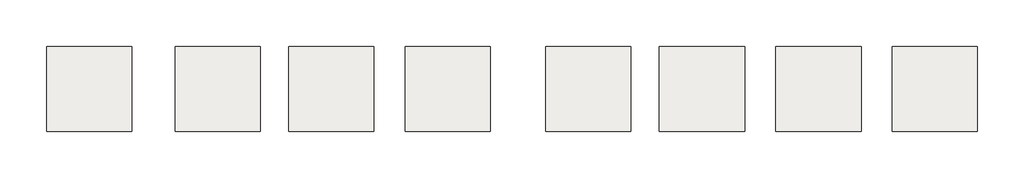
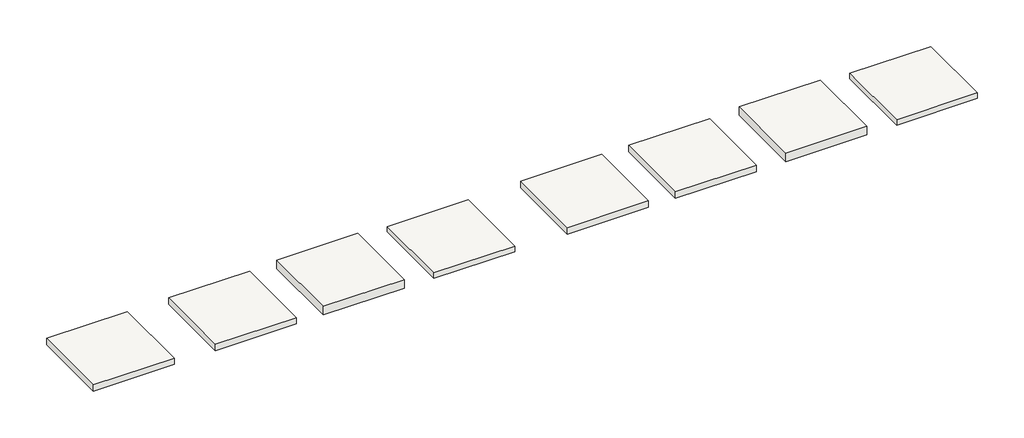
# One storey: 8 roofs.
"""IFC4 building model written with IfcOpenShell, lengths in millimetres."""

from ifc_helpers import new_model, si_unit, origin, origin_with_axes, place, context, project, spatial, polyline, outline, extrude, element, save

model = new_model("IFC4")

# Units and contexts
model_context = context("Model", 3, world=origin())
ifc_project = project(units=[si_unit("LENGTHUNIT", "METRE", prefix="MILLI")], contexts=[model_context])

# Site, building, storey
site = spatial("IfcSite", under=ifc_project)
building = spatial("IfcBuilding", under=site)
storey = spatial("IfcBuildingStorey", under=building, Name="Magna-Loc", Elevation=0.0)

# Roofs
placement = place(None, origin())
element("IfcRoof", 1, ObjectType="Magna-Loc 16\" OC - Solid Substrate", at=placement, inside=storey, context=model_context, shape_type="SweptSolid", body=[
    extrude(outline(polyline([(-17838.4406979, 19652.5817436), (-14790.4406979, 19652.5817436), (-14790.4406979, 16604.5817436), (-17838.4406979, 16604.5817436), (-17838.4406979, 19652.5817436)])), origin_with_axes(), (0.0, 0.0, 1.0), 250.825),
])
element("IfcRoof", 2, ObjectType="Magna-Loc 16\" OC - Steel Framing", at=placement, inside=storey, context=model_context, shape_type="SweptSolid", body=[
    extrude(outline(polyline([(-9173.4157651, 19652.5817436), (-6125.4157651, 19652.5817436), (-6125.4157651, 16604.5817436), (-9173.4157651, 16604.5817436), (-9173.4157651, 19652.5817436)])), origin_with_axes(), (0.0, 0.0, 1.0), 336.55),
])
element("IfcRoof", 3, ObjectType="Magna-Loc 18\" OC - Wood Framing", at=placement, inside=storey, context=model_context, shape_type="SweptSolid", body=[
    extrude(outline(polyline([(4085.3842349, 19652.5817436), (7133.3842349, 19652.5817436), (7133.3842349, 16604.5817436), (4085.3842349, 16604.5817436), (4085.3842349, 19652.5817436)])), origin_with_axes(), (0.0, 0.0, 1.0), 257.175),
])
element("IfcRoof", 4, ObjectType="Magna-Loc 18\" OC - Steel Framing", at=placement, inside=storey, context=model_context, shape_type="SweptSolid", body=[
    extrude(outline(polyline([(8250.9842349, 19652.5817436), (11298.9842349, 19652.5817436), (11298.9842349, 16604.5817436), (8250.9842349, 16604.5817436), (8250.9842349, 19652.5817436)])), origin_with_axes(), (0.0, 0.0, 1.0), 336.55),
])
element("IfcRoof", 5, ObjectType="Magna-Loc 16\" OC - Steel Deck", at=placement, inside=storey, context=model_context, shape_type="SweptSolid", body=[
    extrude(outline(polyline([(-5007.8157651, 19652.5817436), (-1959.8157651, 19652.5817436), (-1959.8157651, 16604.5817436), (-5007.8157651, 16604.5817436), (-5007.8157651, 19652.5817436)])), origin_with_axes(), (0.0, 0.0, 1.0), 212.725),
])
element("IfcRoof", 6, ObjectType="Magna-Loc 18\" OC - Steel Deck", at=placement, inside=storey, context=model_context, shape_type="SweptSolid", body=[
    extrude(outline(polyline([(12416.5842349, 19652.5817436), (15464.5842349, 19652.5817436), (15464.5842349, 16604.5817436), (12416.5842349, 16604.5817436), (12416.5842349, 19652.5817436)])), origin_with_axes(), (0.0, 0.0, 1.0), 212.725),
])
element("IfcRoof", 7, ObjectType="Magna-Loc 16\" OC - Wood Framing", at=placement, inside=storey, context=model_context, shape_type="SweptSolid", body=[
    extrude(outline(polyline([(-13237.4157651, 19652.5817436), (-10189.4157651, 19652.5817436), (-10189.4157651, 16604.5817436), (-13237.4157651, 16604.5817436), (-13237.4157651, 19652.5817436)])), origin_with_axes(), (0.0, 0.0, 1.0), 250.825),
])
element("IfcRoof", 8, ObjectType="Magna-Loc 18\" OC - Solid Substrate", at=placement, inside=storey, context=model_context, shape_type="SweptSolid", body=[
    extrude(outline(polyline([(21.3842349, 19652.5817436), (3069.3842349, 19652.5817436), (3069.3842349, 16604.5817436), (21.3842349, 16604.5817436), (21.3842349, 19652.5817436)])), origin_with_axes(), (0.0, 0.0, 1.0), 257.175),
])

save(model, "model.ifc")
